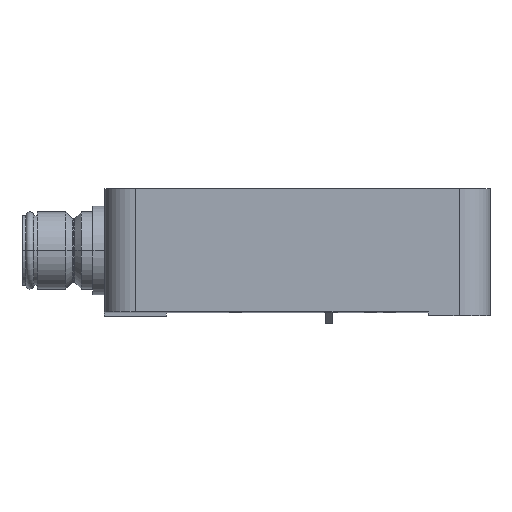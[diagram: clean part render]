
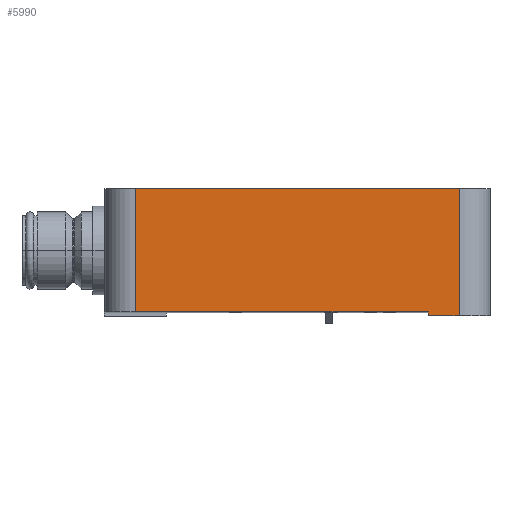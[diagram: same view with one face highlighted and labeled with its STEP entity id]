
A CAD part, top view. The second image highlights one B-rep face of the part: STEP entity #5990.
In plain terms, the highlighted planar face has unit normal (0, 0, 1).
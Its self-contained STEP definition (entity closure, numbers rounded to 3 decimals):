
#625 = FACE_OUTER_BOUND ( 'NONE', #15686, .T. ) ;
#694 = VERTEX_POINT ( 'NONE', #4913 ) ;
#1658 = CARTESIAN_POINT ( 'NONE',  ( 0., 16., 0. ) ) ;
#1660 = PLANE ( 'NONE',  #9538 ) ;
#1663 = DIRECTION ( 'NONE',  ( 0., 0., -1. ) ) ;
#1664 = DIRECTION ( 'NONE',  ( -1., 0., 0. ) ) ;
#4092 = VERTEX_POINT ( 'NONE', #8183 ) ;
#4207 = VERTEX_POINT ( 'NONE', #8235 ) ;
#4270 = VERTEX_POINT ( 'NONE', #8250 ) ;
#4343 = VERTEX_POINT ( 'NONE', #8277 ) ;
#4913 = CARTESIAN_POINT ( 'NONE',  ( 0., 0., 0. ) ) ;
#5310 = CARTESIAN_POINT ( 'NONE',  ( 0., 16., 0. ) ) ;
#5315 = DIRECTION ( 'NONE',  ( 1., 0., 0. ) ) ;
#5990 = ADVANCED_FACE ( 'NONE', ( #625 ), #1660, .F. ) ;
#6724 = LINE ( 'NONE', #12424, #6734 ) ;
#6726 = LINE ( 'NONE', #12419, #6728 ) ;
#6727 = LINE ( 'NONE', #12428, #6730 ) ;
#6728 = VECTOR ( 'NONE', #12420, 1000. ) ;
#6729 = LINE ( 'NONE', #12430, #6732 ) ;
#6730 = VECTOR ( 'NONE', #12429, 1000. ) ;
#6732 = VECTOR ( 'NONE', #12431, 1000. ) ;
#6734 = VECTOR ( 'NONE', #12432, 1000. ) ;
#8183 = CARTESIAN_POINT ( 'NONE',  ( 42., -0.5, 0. ) ) ;
#8235 = CARTESIAN_POINT ( 'NONE',  ( 0., 16., 0. ) ) ;
#8250 = CARTESIAN_POINT ( 'NONE',  ( 38., -0.5, 0. ) ) ;
#8277 = CARTESIAN_POINT ( 'NONE',  ( 42., 16., 0. ) ) ;
#9538 = AXIS2_PLACEMENT_3D ( 'NONE', #1658, #1663, #1664 ) ;
#9713 = EDGE_CURVE ( 'NONE', #694, #10135, #11675, .T. ) ;
#10135 = VERTEX_POINT ( 'NONE', #14496 ) ;
#11675 = LINE ( 'NONE', #14433, #11681 ) ;
#11681 = VECTOR ( 'NONE', #14428, 1000. ) ;
#11705 = LINE ( 'NONE', #5310, #11711 ) ;
#11711 = VECTOR ( 'NONE', #5315, 1000. ) ;
#12419 = CARTESIAN_POINT ( 'NONE',  ( 0., 16., 0. ) ) ;
#12420 = DIRECTION ( 'NONE',  ( 0., -1., 0. ) ) ;
#12424 = CARTESIAN_POINT ( 'NONE',  ( 42., -0.5, 0. ) ) ;
#12428 = CARTESIAN_POINT ( 'NONE',  ( 38., -0.5, 0. ) ) ;
#12429 = DIRECTION ( 'NONE',  ( 0., 1., 0. ) ) ;
#12430 = CARTESIAN_POINT ( 'NONE',  ( 42., 16., 0. ) ) ;
#12431 = DIRECTION ( 'NONE',  ( 0., -1., 0. ) ) ;
#12432 = DIRECTION ( 'NONE',  ( -1., 0., 0. ) ) ;
#13359 = EDGE_CURVE ( 'NONE', #4207, #4343, #11705, .T. ) ;
#13818 = EDGE_CURVE ( 'NONE', #4207, #694, #6726, .T. ) ;
#13819 = EDGE_CURVE ( 'NONE', #4270, #10135, #6727, .T. ) ;
#13820 = EDGE_CURVE ( 'NONE', #4343, #4092, #6729, .T. ) ;
#13821 = EDGE_CURVE ( 'NONE', #4092, #4270, #6724, .T. ) ;
#14428 = DIRECTION ( 'NONE',  ( 1., 0., 0. ) ) ;
#14433 = CARTESIAN_POINT ( 'NONE',  ( 0., 0., 0. ) ) ;
#14496 = CARTESIAN_POINT ( 'NONE',  ( 38., 0., 0. ) ) ;
#14766 = ORIENTED_EDGE ( 'NONE', *, *, #13819, .F. ) ;
#14858 = ORIENTED_EDGE ( 'NONE', *, *, #13821, .F. ) ;
#14886 = ORIENTED_EDGE ( 'NONE', *, *, #13820, .F. ) ;
#14896 = ORIENTED_EDGE ( 'NONE', *, *, #13359, .F. ) ;
#14899 = ORIENTED_EDGE ( 'NONE', *, *, #9713, .T. ) ;
#14928 = ORIENTED_EDGE ( 'NONE', *, *, #13818, .T. ) ;
#15686 = EDGE_LOOP ( 'NONE', ( #14899, #14766, #14858, #14886, #14896, #14928 ) ) ;
